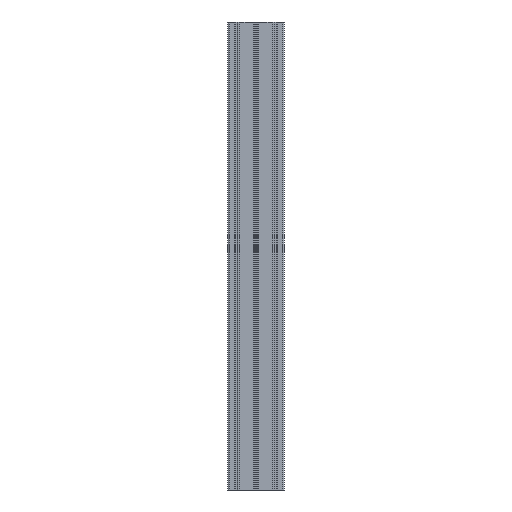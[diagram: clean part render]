
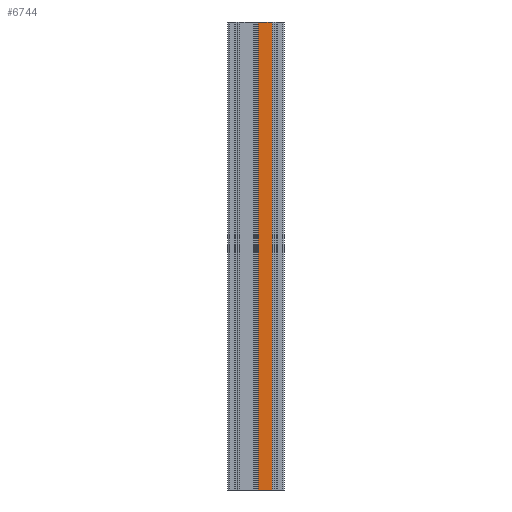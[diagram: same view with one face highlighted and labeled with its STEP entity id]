
A CAD part, front view. The second image highlights one B-rep face of the part: STEP entity #6744.
In plain terms, the highlighted planar face has unit normal (0, -1, 0).
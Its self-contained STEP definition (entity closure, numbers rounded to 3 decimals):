
#833 = DIRECTION ( 'NONE',  ( 1., 0., 0. ) ) ;
#875 = ORIENTED_EDGE ( 'NONE', *, *, #10874, .F. ) ;
#1018 = VECTOR ( 'NONE', #11044, 1000. ) ;
#1338 = LINE ( 'NONE', #13026, #1018 ) ;
#1581 = LINE ( 'NONE', #3402, #9292 ) ;
#1680 = ORIENTED_EDGE ( 'NONE', *, *, #5633, .T. ) ;
#1990 = CARTESIAN_POINT ( 'NONE',  ( 74.895, -59.996, -1000. ) ) ;
#2188 = CARTESIAN_POINT ( 'NONE',  ( 74.895, -59.996, 0. ) ) ;
#2230 = VERTEX_POINT ( 'NONE', #8210 ) ;
#2439 = EDGE_CURVE ( 'NONE', #2567, #2230, #1338, .T. ) ;
#2567 = VERTEX_POINT ( 'NONE', #4165 ) ;
#3402 = CARTESIAN_POINT ( 'NONE',  ( 74.895, -59.996, -1000. ) ) ;
#4000 = DIRECTION ( 'NONE',  ( 0., 0., -1. ) ) ;
#4165 = CARTESIAN_POINT ( 'NONE',  ( 45.095, -59.996, -1000. ) ) ;
#4388 = EDGE_CURVE ( 'NONE', #2567, #8520, #1581, .T. ) ;
#4911 = VERTEX_POINT ( 'NONE', #2188 ) ;
#5633 = EDGE_CURVE ( 'NONE', #8520, #4911, #6104, .T. ) ;
#6002 = PLANE ( 'NONE',  #11595 ) ;
#6104 = LINE ( 'NONE', #6459, #8481 ) ;
#6459 = CARTESIAN_POINT ( 'NONE',  ( 74.895, -59.996, -1000. ) ) ;
#6744 = ADVANCED_FACE ( 'NONE', ( #10000 ), #6002, .T. ) ;
#8210 = CARTESIAN_POINT ( 'NONE',  ( 45.095, -59.996, 0. ) ) ;
#8481 = VECTOR ( 'NONE', #12437, 1000. ) ;
#8520 = VERTEX_POINT ( 'NONE', #12427 ) ;
#9292 = VECTOR ( 'NONE', #12429, 1000. ) ;
#9527 = ORIENTED_EDGE ( 'NONE', *, *, #4388, .T. ) ;
#9730 = VECTOR ( 'NONE', #833, 1000. ) ;
#9851 = CARTESIAN_POINT ( 'NONE',  ( 74.895, -59.996, 0. ) ) ;
#9933 = EDGE_LOOP ( 'NONE', ( #875, #12985, #9527, #1680 ) ) ;
#10000 = FACE_OUTER_BOUND ( 'NONE', #9933, .T. ) ;
#10039 = DIRECTION ( 'NONE',  ( 0., -1., 0. ) ) ;
#10874 = EDGE_CURVE ( 'NONE', #2230, #4911, #12424, .T. ) ;
#11044 = DIRECTION ( 'NONE',  ( 0., 0., 1. ) ) ;
#11595 = AXIS2_PLACEMENT_3D ( 'NONE', #1990, #10039, #4000 ) ;
#12424 = LINE ( 'NONE', #9851, #9730 ) ;
#12427 = CARTESIAN_POINT ( 'NONE',  ( 74.895, -59.996, -1000. ) ) ;
#12429 = DIRECTION ( 'NONE',  ( 1., 0., 0. ) ) ;
#12437 = DIRECTION ( 'NONE',  ( 0., 0., 1. ) ) ;
#12985 = ORIENTED_EDGE ( 'NONE', *, *, #2439, .F. ) ;
#13026 = CARTESIAN_POINT ( 'NONE',  ( 45.095, -59.996, -1000. ) ) ;
